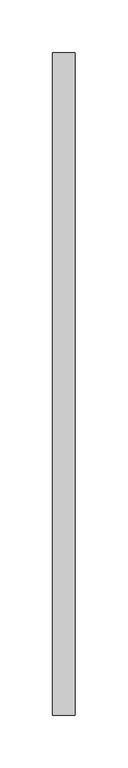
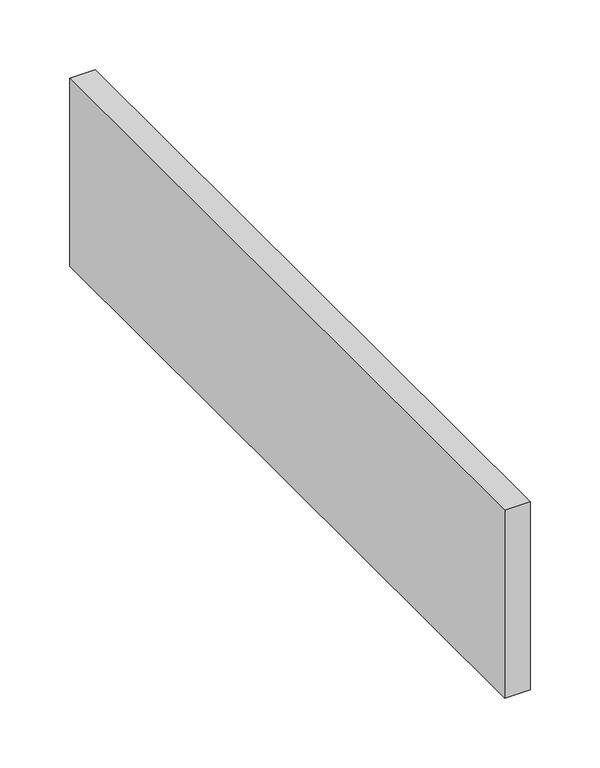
"""IFC4 building model written with IfcOpenShell, lengths in millimetres: duct fitting geometry, MEP_15.03 Injerto Conducte : Mínimo."""

from ifc_helpers import new_model, si_unit, frame, origin, place, context, project, spatial, polyline, outline, extrude, source, transform, mapped, element, save


def duct_fitting_83dfcd28(model_context):
    return source(origin(), model_context, "Body", "SweptSolid", [
        extrude(outline(polyline([(-6.096, -312.5), (-6.096, 312.5), (15.0, 312.5), (15.0, -312.5), (-6.096, -312.5)])), frame((0.0, 0.0, -82.5), z_axis=(0.0, 0.0, 1.0), x_axis=(1.0, 0.0, 0.0)), (0.0, 0.0, 1.0), 165.0),
    ])


if __name__ == "__main__":
    model = new_model("IFC4")
    model_context = context("Model", 3, world=origin())
    ifc_project = project(units=[si_unit("LENGTHUNIT", "METRE", prefix="MILLI")], contexts=[model_context])
    site = spatial("IfcSite", under=ifc_project)
    building = spatial("IfcBuilding", under=site)
    placement = place(None, origin())
    duct_fitting_shape = duct_fitting_83dfcd28(model_context)
    element("IfcDuctFitting", 1, ObjectType="MEP_15.03 Injerto Conducte : Mínimo", at=placement, inside=building, context=model_context, shape_type="MappedRepresentation", body=[
        mapped(duct_fitting_shape, transform((0.0, 0.0, 0.0), x_axis=(1.0, 0.0, 0.0), y_axis=(0.0, 1.0, 0.0), z_axis=(0.0, 0.0, 1.0))),
    ])
    save(model, "model.ifc")
